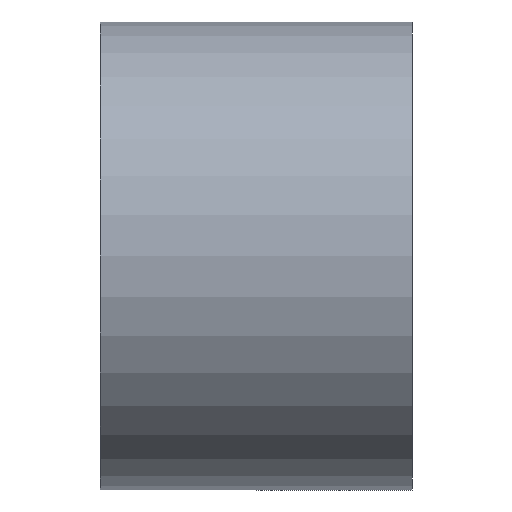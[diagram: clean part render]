
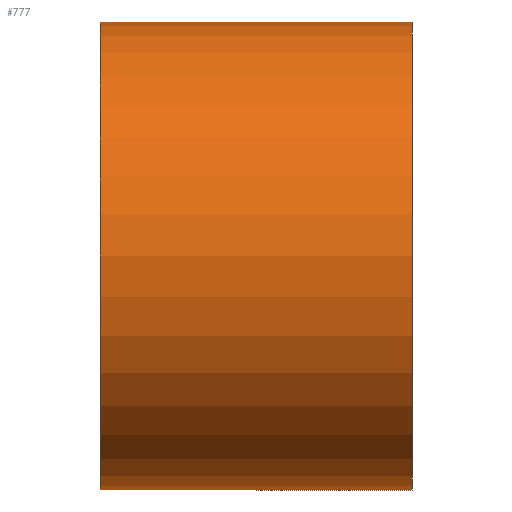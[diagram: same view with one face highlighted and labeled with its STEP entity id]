
A CAD part, front view. The second image highlights one B-rep face of the part: STEP entity #777.
In plain terms, the highlighted cylindrical face has radius 7.5 mm (diameter 15 mm), a partial arc.
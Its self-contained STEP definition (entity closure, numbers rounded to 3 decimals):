
#25 = LINE ( 'NONE', #416, #759 ) ;
#51 = ORIENTED_EDGE ( 'NONE', *, *, #761, .T. ) ;
#84 = DIRECTION ( 'NONE',  ( -1., 0., 0. ) ) ;
#106 = VECTOR ( 'NONE', #806, 1000. ) ;
#142 = CARTESIAN_POINT ( 'NONE',  ( 0., 0., 0. ) ) ;
#155 = EDGE_CURVE ( 'NONE', #543, #205, #509, .T. ) ;
#170 = DIRECTION ( 'NONE',  ( 0., 0., 1. ) ) ;
#205 = VERTEX_POINT ( 'NONE', #351 ) ;
#250 = CARTESIAN_POINT ( 'NONE',  ( 5., 0., -7.5 ) ) ;
#253 = EDGE_CURVE ( 'NONE', #883, #798, #752, .T. ) ;
#276 = DIRECTION ( 'NONE',  ( 0., 0., 1. ) ) ;
#277 = DIRECTION ( 'NONE',  ( 0., 0., 1. ) ) ;
#315 = CARTESIAN_POINT ( 'NONE',  ( -5., 0., -7.5 ) ) ;
#344 = CARTESIAN_POINT ( 'NONE',  ( -5., 0., 0. ) ) ;
#351 = CARTESIAN_POINT ( 'NONE',  ( -5., 0., 7.5 ) ) ;
#400 = CYLINDRICAL_SURFACE ( 'NONE', #445, 7.5 ) ;
#402 = ORIENTED_EDGE ( 'NONE', *, *, #415, .F. ) ;
#415 = EDGE_CURVE ( 'NONE', #883, #543, #25, .T. ) ;
#416 = CARTESIAN_POINT ( 'NONE',  ( 0., 0., -7.5 ) ) ;
#445 = AXIS2_PLACEMENT_3D ( 'NONE', #142, #816, #276 ) ;
#475 = CARTESIAN_POINT ( 'NONE',  ( 5., 0., 7.5 ) ) ;
#499 = CARTESIAN_POINT ( 'NONE',  ( 5., 0., 0. ) ) ;
#509 = CIRCLE ( 'NONE', #630, 7.5 ) ;
#520 = AXIS2_PLACEMENT_3D ( 'NONE', #499, #847, #170 ) ;
#543 = VERTEX_POINT ( 'NONE', #315 ) ;
#606 = FACE_OUTER_BOUND ( 'NONE', #737, .T. ) ;
#612 = LINE ( 'NONE', #745, #106 ) ;
#630 = AXIS2_PLACEMENT_3D ( 'NONE', #344, #760, #277 ) ;
#678 = ORIENTED_EDGE ( 'NONE', *, *, #253, .T. ) ;
#737 = EDGE_LOOP ( 'NONE', ( #402, #678, #51, #778 ) ) ;
#745 = CARTESIAN_POINT ( 'NONE',  ( 0., 0., 7.5 ) ) ;
#752 = CIRCLE ( 'NONE', #520, 7.5 ) ;
#759 = VECTOR ( 'NONE', #84, 1000. ) ;
#760 = DIRECTION ( 'NONE',  ( -1., 0., 0. ) ) ;
#761 = EDGE_CURVE ( 'NONE', #798, #205, #612, .T. ) ;
#777 = ADVANCED_FACE ( 'NONE', ( #606 ), #400, .T. ) ;
#778 = ORIENTED_EDGE ( 'NONE', *, *, #155, .F. ) ;
#798 = VERTEX_POINT ( 'NONE', #475 ) ;
#806 = DIRECTION ( 'NONE',  ( -1., 0., 0. ) ) ;
#816 = DIRECTION ( 'NONE',  ( -1., 0., 0. ) ) ;
#847 = DIRECTION ( 'NONE',  ( -1., 0., 0. ) ) ;
#883 = VERTEX_POINT ( 'NONE', #250 ) ;
